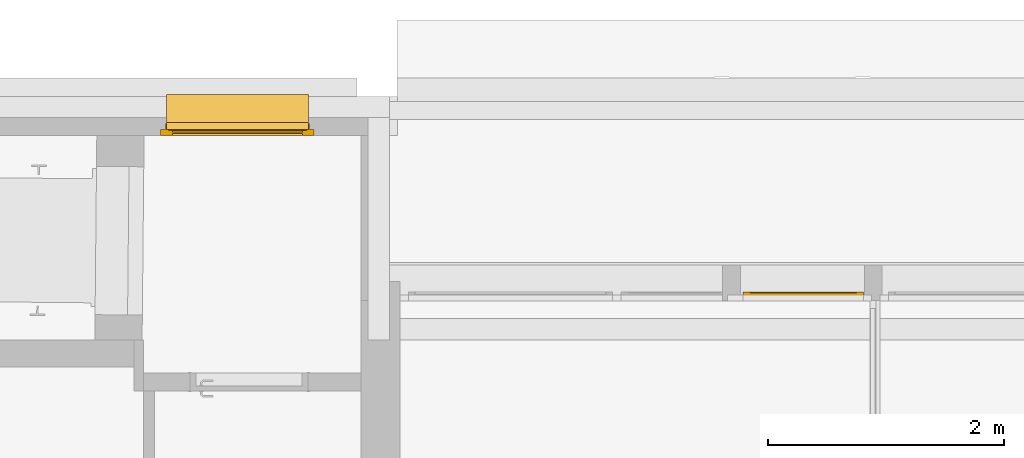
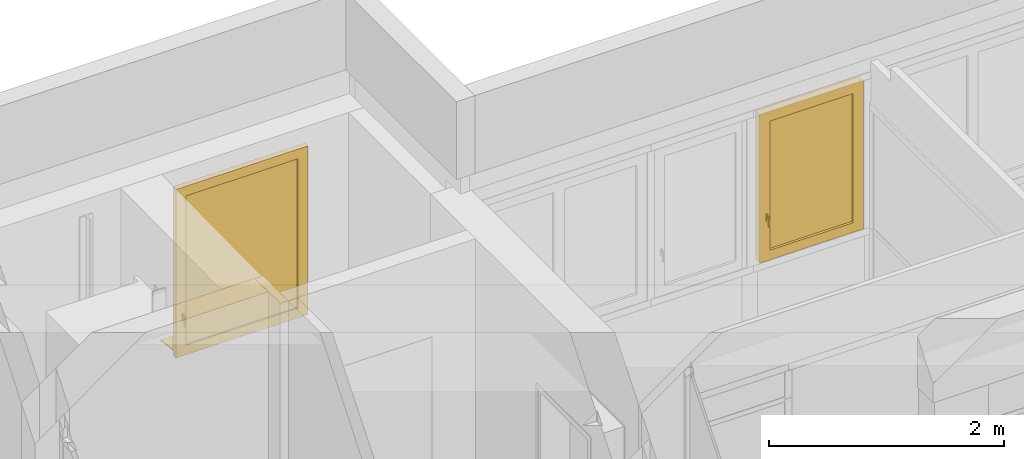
# One storey, part 43 of 49: 2 windows, 1 element without a shape of its own.
"""IFC4 building model written with IfcOpenShell, lengths in metres."""

from ifc_helpers import new_model, entity, si_unit, converted_unit, derived_unit, direction, frame, origin, place, context, subcontext, project, spatial, polygons, source, transform, mapped, material, material_list, constituent, constituent_set, type_object, type_shapes, element, aggregate, save


model = new_model("IFC4")

# Units and contexts
model_context = context("Model", 3, precision=1e-05, world=origin(), true_north=direction((6.12303176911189e-17, 1.0)))
body_context = subcontext(model_context, "Body", "Model", "MODEL_VIEW")
ifc_project = project(units=[si_unit("LENGTHUNIT", "METRE"), si_unit("AREAUNIT", "SQUARE_METRE"), si_unit("VOLUMEUNIT", "CUBIC_METRE"), converted_unit("PLANEANGLEUNIT", "DEGREE", entity("IfcRatioMeasure", 0.0174532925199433), si_unit("PLANEANGLEUNIT", "RADIAN"), dimensions=[0, 0, 0, 0, 0, 0, 0]), si_unit("MASSUNIT", "GRAM", prefix="KILO"), derived_unit("MASSDENSITYUNIT", [(si_unit("MASSUNIT", "GRAM", prefix="KILO"), 1), (si_unit("LENGTHUNIT", "METRE"), -3)]), derived_unit("MOMENTOFINERTIAUNIT", [(si_unit("LENGTHUNIT", "METRE"), 4)]), si_unit("TIMEUNIT", "SECOND"), si_unit("FREQUENCYUNIT", "HERTZ"), si_unit("THERMODYNAMICTEMPERATUREUNIT", "DEGREE_CELSIUS"), derived_unit("THERMALTRANSMITTANCEUNIT", [(si_unit("MASSUNIT", "GRAM", prefix="KILO"), 1), (si_unit("THERMODYNAMICTEMPERATUREUNIT", "KELVIN"), -1), (si_unit("TIMEUNIT", "SECOND"), -3)]), derived_unit("VOLUMETRICFLOWRATEUNIT", [(si_unit("LENGTHUNIT", "METRE"), 3), (si_unit("TIMEUNIT", "SECOND"), -1)]), si_unit("ELECTRICCURRENTUNIT", "AMPERE"), si_unit("ELECTRICVOLTAGEUNIT", "VOLT"), si_unit("POWERUNIT", "WATT"), si_unit("FORCEUNIT", "NEWTON", prefix="KILO"), si_unit("ILLUMINANCEUNIT", "LUX"), si_unit("LUMINOUSFLUXUNIT", "LUMEN"), si_unit("LUMINOUSINTENSITYUNIT", "CANDELA"), derived_unit("USERDEFINED", [(si_unit("MASSUNIT", "GRAM", prefix="KILO"), -1), (si_unit("LENGTHUNIT", "METRE"), -2), (si_unit("TIMEUNIT", "SECOND"), 3), (si_unit("LUMINOUSFLUXUNIT", "LUMEN"), 1)]), derived_unit("LINEARVELOCITYUNIT", [(si_unit("LENGTHUNIT", "METRE"), 1), (si_unit("TIMEUNIT", "SECOND"), -1)]), si_unit("PRESSUREUNIT", "PASCAL"), derived_unit("USERDEFINED", [(si_unit("LENGTHUNIT", "METRE"), -2), (si_unit("MASSUNIT", "GRAM", prefix="KILO"), 1), (si_unit("TIMEUNIT", "SECOND"), -2)]), derived_unit("LINEARFORCEUNIT", [(si_unit("MASSUNIT", "GRAM", prefix="KILO"), 1), (si_unit("LENGTHUNIT", "METRE"), 1), (si_unit("TIMEUNIT", "SECOND"), -2), (si_unit("LENGTHUNIT", "METRE"), -1)]), derived_unit("PLANARFORCEUNIT", [(si_unit("MASSUNIT", "GRAM", prefix="KILO"), 1), (si_unit("LENGTHUNIT", "METRE"), 1), (si_unit("TIMEUNIT", "SECOND"), -2), (si_unit("LENGTHUNIT", "METRE"), -2)])], contexts=[model_context])

# Site, building, storey
site_placement = place(None, origin())
site = spatial("IfcSite", under=ifc_project, at=site_placement, Name="Default", CompositionType="ELEMENT")
building_placement = place(site_placement, origin())
building = spatial("IfcBuilding", under=site, at=building_placement, Name="HOTEL CONSULAIRE BOULOGNE SUR MER", CompositionType="ELEMENT")
storey_placement = place(building_placement, frame((0.0, 0.0, 6.81974152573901)))
storey = spatial("IfcBuildingStorey", under=building, at=storey_placement, Name="Niveau 2", CompositionType="ELEMENT", Elevation=6.81974152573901)

# Window
ifc_material_1 = material(Name="PVC - Blanc", Category="Plastique")
ifc_constituent_1 = constituent(ifc_material_1, Name="PVC - Blanc", Category="Matériaux")
ifc_material_2 = material(Name="Fenêtre - Appui", Category="Métal")
ifc_constituent_2 = constituent(ifc_material_2, Name="Fenêtre - Appui", Category="Matériaux")
ifc_constituent_set_1 = constituent_set(constituents=[ifc_constituent_1, ifc_constituent_2], Name="MaterialConstituentSet")
ifc_material_list_1 = material_list([ifc_material_1, ifc_material_1, ifc_material_1, ifc_material_1, ifc_material_2])
window_type_1 = type_object("IfcWindowType", Name="1 Vantail - Droit:1.20x1.70", PartitioningType="NOTDEFINED", PredefinedType="WINDOW", material=ifc_material_list_1)
shared_shape_1 = source(origin(), body_context, "Body", "Tessellation", [
    polygons([(0.0806460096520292, -0.67100000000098, 0.498519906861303), (0.0820339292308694, -0.67100000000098, 0.497131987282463), (0.0820339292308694, -0.67100000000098, 0.485818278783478), (0.0806676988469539, -0.67100000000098, 0.484452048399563), (0.0693323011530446, -0.67100000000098, 0.484452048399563), (0.067966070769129, -0.67100000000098, 0.485818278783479), (0.067966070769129, -0.67100000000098, 0.497131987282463), (0.069353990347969, -0.67100000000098, 0.498519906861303), (0.0806460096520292, -0.683913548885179, 0.498519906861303), (0.0820339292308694, -0.68333865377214, 0.497131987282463), (0.0820339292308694, -0.69664600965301, 0.483824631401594), (0.0820339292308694, -0.69664600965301, 0.396485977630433), (0.0820339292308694, -0.685332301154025, 0.396485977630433), (0.0820339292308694, -0.685332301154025, 0.479138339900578), (0.0820339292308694, -0.678652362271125, 0.485818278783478), (0.0806676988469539, -0.678086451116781, 0.484452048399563), (0.0693323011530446, -0.678086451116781, 0.484452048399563), (0.067966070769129, -0.678652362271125, 0.485818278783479), (0.067966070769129, -0.685332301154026, 0.479138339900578), (0.067966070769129, -0.685332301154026, 0.396485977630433), (0.067966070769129, -0.69664600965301, 0.396485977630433), (0.067966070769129, -0.69664600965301, 0.483824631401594), (0.067966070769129, -0.68333865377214, 0.497131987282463), (0.069353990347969, -0.683913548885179, 0.498519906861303), (0.0806460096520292, -0.69803392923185, 0.484399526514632), (0.080667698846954, -0.68396607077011, 0.478572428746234), (0.0693323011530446, -0.68396607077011, 0.478572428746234), (0.069353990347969, -0.69803392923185, 0.484399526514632), (0.0806460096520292, -0.69803392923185, 0.396485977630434), (0.069353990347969, -0.69803392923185, 0.396485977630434), (0.0693323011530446, -0.68396607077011, 0.396485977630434), (0.0806676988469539, -0.68396607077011, 0.396485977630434)], [[[5, 6, 7, 8, 1, 2, 3, 4]], [[27, 26, 32, 31]], [[2, 1, 9, 10]], [[2, 10, 11, 12, 13, 14, 15, 3]], [[4, 3, 15, 16]], [[5, 4, 16, 17]], [[32, 13, 12, 29, 30, 21, 20, 31]], [[6, 5, 17, 18]], [[6, 18, 19, 20, 21, 22, 23, 7]], [[8, 7, 23, 24]], [[1, 8, 24, 9]], [[10, 9, 25, 11]], [[16, 15, 14, 26]], [[17, 16, 26, 27]], [[18, 17, 27, 19]], [[24, 23, 22, 28]], [[9, 24, 28, 25]], [[11, 25, 29, 12]], [[26, 14, 13, 32]], [[19, 27, 31, 20]], [[28, 22, 21, 30]], [[25, 28, 30, 29]]], closed=True),
    polygons([(0.0820000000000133, -0.671000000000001, 0.51648597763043), (0.0679999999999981, -0.671000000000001, 0.51648597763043), (0.0629999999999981, -0.671000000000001, 0.511485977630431), (0.0629999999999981, -0.671000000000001, 0.441485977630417), (0.0679999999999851, -0.671000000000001, 0.43648597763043), (0.0820000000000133, -0.671000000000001, 0.43648597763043), (0.0869999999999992, -0.671000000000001, 0.441485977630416), (0.0869999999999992, -0.671000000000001, 0.511485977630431), (0.0820000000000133, -0.665000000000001, 0.51648597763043), (0.0869999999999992, -0.665000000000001, 0.511485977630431), (0.0869999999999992, -0.665000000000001, 0.441485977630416), (0.0820000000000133, -0.665000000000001, 0.43648597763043), (0.0679999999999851, -0.665000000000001, 0.43648597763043), (0.0629999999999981, -0.665000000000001, 0.441485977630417), (0.0629999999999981, -0.665000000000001, 0.511485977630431), (0.0679999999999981, -0.665000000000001, 0.51648597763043)], [[[4, 5, 6, 7, 8, 1, 2, 3]], [[10, 11, 12, 13, 14, 15, 16, 9]], [[2, 1, 9, 16]], [[3, 2, 16, 15]], [[4, 3, 15, 14]], [[5, 4, 14, 13]], [[6, 5, 13, 12]], [[7, 6, 12, 11]], [[8, 7, 11, 10]], [[1, 8, 10, 9]]], closed=True),
    polygons([(1.25, -0.319999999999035, 0.0388885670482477), (1.25, -0.579999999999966, 0.0662156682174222), (1.25, -0.579999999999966, 0.0764859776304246), (1.25, -0.584999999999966, 0.0764859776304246), (1.25, -0.584999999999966, 0.061485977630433), (1.25, -0.324999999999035, 0.0341588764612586), (1.25, -0.324999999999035, 0.0238583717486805), (1.25, -0.319999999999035, 0.0233328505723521), (0.0499999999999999, -0.319999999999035, 0.0388885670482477), (0.0499999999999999, -0.319999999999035, 0.0233328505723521), (0.0499999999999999, -0.324999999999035, 0.0238583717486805), (0.0499999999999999, -0.324999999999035, 0.0341588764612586), (0.0499999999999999, -0.584999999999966, 0.061485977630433), (0.0499999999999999, -0.584999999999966, 0.0764859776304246), (0.0499999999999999, -0.579999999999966, 0.0764859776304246), (0.0499999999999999, -0.579999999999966, 0.0662156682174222)], [[[1, 2, 3, 4, 5, 6, 7, 8]], [[14, 15, 16, 9, 10, 11, 12, 13]], [[2, 1, 9, 16]], [[3, 2, 16, 15]], [[1, 8, 10, 9]], [[4, 3, 15, 14]], [[5, 4, 14, 13]], [[7, 6, 12, 11]], [[6, 5, 13, 12]], [[8, 7, 11, 10]]], closed=True),
    polygons([(0.0500000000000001, -0.319999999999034, 0.0388885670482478), (0.0499999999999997, -0.579999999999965, 0.0662156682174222), (0.0499999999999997, -0.579999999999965, 0.0712432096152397), (0.0500000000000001, -0.323581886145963, 0.0442925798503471), (0.0500000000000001, -0.321027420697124, 0.0429910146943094), (0.0500000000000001, -0.319999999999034, 0.040314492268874), (0.0550000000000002, -0.319999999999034, 0.0388885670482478), (0.0550000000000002, -0.319999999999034, 0.040314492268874), (0.0550000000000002, -0.321027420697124, 0.0429910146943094), (0.0550000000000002, -0.323581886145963, 0.0442925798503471), (0.0549999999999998, -0.579999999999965, 0.0712432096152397), (0.0549999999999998, -0.579999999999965, 0.0662156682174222)], [[[6, 1, 2, 3, 4, 5]], [[11, 12, 7, 8, 9, 10]], [[2, 1, 7, 12]], [[3, 2, 12, 11]], [[4, 3, 11, 10]], [[4, 10, 9, 5]], [[9, 8, 6, 5]], [[1, 6, 8, 7]]], closed=True),
    polygons([(1.245, -0.319999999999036, 0.0388885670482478), (1.245, -0.579999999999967, 0.0662156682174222), (1.245, -0.579999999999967, 0.0712432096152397), (1.245, -0.323581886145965, 0.0442925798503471), (1.245, -0.321027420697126, 0.0429910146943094), (1.245, -0.319999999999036, 0.040314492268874), (1.25, -0.319999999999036, 0.0388885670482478), (1.25, -0.319999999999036, 0.040314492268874), (1.25, -0.321027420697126, 0.0429910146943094), (1.25, -0.323581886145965, 0.0442925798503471), (1.25, -0.579999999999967, 0.0712432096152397), (1.25, -0.579999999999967, 0.0662156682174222)], [[[6, 1, 2, 3, 4, 5]], [[11, 12, 7, 8, 9, 10]], [[2, 1, 7, 12]], [[3, 2, 12, 11]], [[4, 3, 11, 10]], [[4, 10, 9, 5]], [[9, 8, 6, 5]], [[1, 6, 8, 7]]], closed=True),
    polygons([(0.099999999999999, -0.639000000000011, 0.176485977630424), (0.0999999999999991, -0.639000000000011, 1.72648597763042), (1.2, -0.639000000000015, 1.72648597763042), (1.2, -0.639000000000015, 0.176485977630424), (0.0999999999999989, -0.651000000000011, 0.176485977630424), (1.2, -0.651000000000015, 0.176485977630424), (1.2, -0.651000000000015, 1.72648597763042), (0.099999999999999, -0.651000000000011, 1.72648597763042)], [[[4, 1, 2, 3]], [[7, 8, 5, 6]], [[2, 1, 5, 8]], [[3, 2, 8, 7]], [[4, 3, 7, 6]], [[1, 4, 6, 5]]], closed=True),
    polygons([(0.099999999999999, -0.625000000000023, 0.176485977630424), (0.0999999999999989, -0.66500000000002, 0.176485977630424), (1.2, -0.665000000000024, 0.176485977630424), (1.2, -0.625000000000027, 0.176485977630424), (0.0499999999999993, -0.66500000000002, 0.126485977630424), (0.0499999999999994, -0.625000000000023, 0.126485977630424), (1.25, -0.625000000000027, 0.126485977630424), (1.25, -0.665000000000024, 0.126485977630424), (1.2, -0.665000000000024, 1.72648597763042), (1.2, -0.625000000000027, 1.72648597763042), (1.25, -0.625000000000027, 1.77648597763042), (1.25, -0.665000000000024, 1.77648597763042), (0.0999999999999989, -0.66500000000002, 1.72648597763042), (0.0999999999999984, -0.625000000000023, 1.72648597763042), (0.0499999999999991, -0.625000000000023, 1.77648597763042), (0.0499999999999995, -0.66500000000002, 1.77648597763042)], [[[1, 2, 3, 4]], [[12, 11, 15, 16]], [[5, 6, 7, 8]], [[10, 9, 13, 14]], [[4, 3, 9, 10]], [[16, 15, 6, 5]], [[8, 7, 11, 12]], [[14, 13, 2, 1]], [[11, 7, 6, 15], [14, 1, 4, 10]], [[16, 5, 8, 12], [9, 3, 2, 13]]], closed=True),
    polygons([(0.0, -0.665000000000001, 0.0764859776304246), (0.0, -0.615000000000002, 0.0764859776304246), (0.0499999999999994, -0.615000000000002, 0.0764859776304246), (0.0499999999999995, -0.565000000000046, 0.0764859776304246), (1.25, -0.565000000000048, 0.0764859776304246), (1.25, -0.615000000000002, 0.0764859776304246), (1.3, -0.615000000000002, 0.0764859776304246), (1.3, -0.665000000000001, 0.0764859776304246), (1.35358391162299e-16, -0.615000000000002, 1.82648597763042), (1.3, -0.615000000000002, 1.82648597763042), (1.25, -0.615000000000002, 0.115862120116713), (0.0499999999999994, -0.615000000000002, 0.115862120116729), (0.0649999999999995, -0.615000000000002, 1.76148597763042), (0.0649999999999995, -0.615000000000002, 0.141485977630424), (1.235, -0.615000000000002, 0.141485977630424), (1.235, -0.615000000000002, 1.76148597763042), (0.0649999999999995, -0.625000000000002, 1.76148597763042), (0.0649999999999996, -0.625000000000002, 0.141485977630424), (1.25, -0.625000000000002, 1.77648597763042), (0.0499999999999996, -0.625000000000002, 1.77648597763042), (0.0499999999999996, -0.625000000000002, 0.126485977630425), (1.25, -0.625000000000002, 0.126485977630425), (1.235, -0.625000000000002, 1.76148597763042), (1.235, -0.625000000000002, 0.141485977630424), (0.0499999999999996, -0.665000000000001, 1.77648597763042), (0.0499999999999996, -0.665000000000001, 0.126485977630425), (1.3, -0.665000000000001, 1.82648597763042), (1.35358391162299e-16, -0.665000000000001, 1.82648597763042), (1.25, -0.665000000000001, 1.77648597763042), (1.25, -0.665000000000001, 0.126485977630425), (0.0499999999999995, -0.555000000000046, 0.0997851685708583), (0.0499999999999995, -0.555000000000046, 0.0714859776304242), (0.0499999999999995, -0.565000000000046, 0.0714859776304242), (1.25, -0.565000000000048, 0.0714859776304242), (1.25, -0.555000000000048, 0.0714859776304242), (1.25, -0.555000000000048, 0.0997851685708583)], [[[5, 6, 7, 8, 1, 2, 3, 4]], [[17, 13, 16, 23]], [[25, 20, 19, 29]], [[33, 32, 35, 34]], [[2, 9, 10, 7, 6, 11, 12, 3], [14, 15, 16, 13]], [[32, 31, 36, 35]], [[18, 14, 13, 17]], [[26, 21, 20, 25]], [[10, 27, 8, 7]], [[11, 6, 5, 34, 35, 36]], [[22, 19, 20, 21], [18, 17, 23, 24]], [[8, 27, 28, 1], [26, 25, 29, 30]], [[4, 33, 34, 5]], [[2, 1, 28, 9]], [[23, 16, 15, 24]], [[29, 19, 22, 30]], [[31, 32, 33, 4, 3, 12]], [[9, 28, 27, 10]], [[21, 26, 30, 22]], [[14, 18, 24, 15]], [[31, 12, 11, 36]]], closed=True),
    polygons([(0.0499999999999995, -0.565, 0.0764859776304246), (0.0499999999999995, -0.615000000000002, 0.0764859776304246), (0.039999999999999, -0.615000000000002, 0.0764859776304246), (0.039999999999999, -0.565, 0.0764859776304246), (0.0499999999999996, -0.565, 1.77648597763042), (0.0499999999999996, -0.615000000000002, 1.77648597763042), (1.25, -0.615000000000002, 1.77648597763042), (1.25, -0.615000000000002, 0.0764859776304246), (1.26, -0.615000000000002, 0.0764859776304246), (1.26, -0.615000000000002, 1.78648597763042), (0.0399999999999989, -0.615000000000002, 1.78648597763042), (0.0399999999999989, -0.565, 1.78648597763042), (1.26, -0.565, 1.78648597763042), (1.26, -0.565, 0.0764859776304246), (1.25, -0.565, 0.0764859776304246), (1.25, -0.565, 1.77648597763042)], [[[2, 3, 4, 1]], [[6, 5, 16, 7]], [[15, 14, 9, 8]], [[2, 1, 5, 6]], [[13, 10, 9, 14]], [[8, 9, 10, 11, 3, 2, 6, 7]], [[4, 3, 11, 12]], [[7, 16, 15, 8]], [[1, 4, 12, 13, 14, 15, 16, 5]], [[12, 11, 10, 13]]], closed=True),
])
type_shapes(window_type_1, [shared_shape_1])
window_1_placement = place(storey_placement, frame((9.64419750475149, -9.57532416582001, 0.923514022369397)))
element("IfcWindow", 1, at=window_1_placement, inside=storey, type_object=window_type_1, material=ifc_constituent_set_1, Name="1 Vantail - Droit:1.20x1.70", ObjectType="1 Vantail - Droit:1.20x1.70", OverallHeight=1.83, OverallWidth=1.3, PartitioningType="NOTDEFINED", PredefinedType="WINDOW", context=body_context, shape_type="MappedRepresentation", body=[
    mapped(shared_shape_1, transform((0.0, 0.0, 0.0), scale=1.0)),
])

# Curtain wall, window
curtain_wall_type = type_object("IfcCurtainWallType", Name="Mur-rideau:Simple panneau", PredefinedType="NOTDEFINED")
curtain_wall_placement = place(storey_placement, frame((0.0, 0.0, -6.81974152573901)))
curtain_wall = element("IfcCurtainWall", 2, at=curtain_wall_placement, inside=storey, type_object=curtain_wall_type, Name="Mur-rideau:Simple panneau", ObjectType="Mur-rideau:Simple panneau", PredefinedType="NOTDEFINED")
ifc_constituent_3 = constituent(ifc_material_1, Name="PVC - Blanc", Category="Matériaux")
ifc_material_3 = material(Name="Fenêtre - Vitrage", Category="Verre")
ifc_constituent_4 = constituent(ifc_material_3, Name="Fenêtre - Vitrage", Category="Matériaux")
ifc_constituent_set_2 = constituent_set(constituents=[ifc_constituent_3, ifc_constituent_4], Name="MaterialConstituentSet")
ifc_material_list_2 = material_list([ifc_material_1, ifc_material_1])
window_type_2 = type_object("IfcWindowType", Name="MR 1 Vantail:MR 1 Vantail", PartitioningType="NOTDEFINED", PredefinedType="WINDOW", material=ifc_material_list_2)
shared_shape_2 = source(origin(), body_context, "Body", "Tessellation", [
    polygons([(-0.44020465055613, -0.0492408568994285, 0.472033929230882), (-0.42891263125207, -0.0492408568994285, 0.472033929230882), (-0.42752471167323, -0.0492408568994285, 0.470646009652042), (-0.42752471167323, -0.0492408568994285, 0.459332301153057), (-0.428890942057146, -0.0492408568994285, 0.457966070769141), (-0.440226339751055, -0.0492408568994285, 0.457966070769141), (-0.44159257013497, -0.0492408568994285, 0.459332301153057), (-0.44159257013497, -0.0492408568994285, 0.470646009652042), (-0.44159257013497, -0.0615795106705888, 0.470646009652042), (-0.44020465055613, -0.0621544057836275, 0.472033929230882), (-0.44159257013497, -0.0568932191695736, 0.459332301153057), (-0.44159257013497, -0.0635731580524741, 0.452652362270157), (-0.44159257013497, -0.0635731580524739, 0.370000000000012), (-0.44159257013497, -0.0748868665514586, 0.370000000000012), (-0.44159257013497, -0.0748868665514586, 0.457338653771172), (-0.440226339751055, -0.0563273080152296, 0.457966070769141), (-0.428890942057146, -0.0563273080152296, 0.457966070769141), (-0.42752471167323, -0.0568932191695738, 0.459332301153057), (-0.42752471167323, -0.0615795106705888, 0.470646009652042), (-0.42752471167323, -0.0748868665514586, 0.457338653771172), (-0.42752471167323, -0.0748868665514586, 0.370000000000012), (-0.42752471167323, -0.0635731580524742, 0.370000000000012), (-0.42752471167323, -0.0635731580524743, 0.452652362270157), (-0.42891263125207, -0.0621544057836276, 0.472033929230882), (-0.44020465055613, -0.076274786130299, 0.457913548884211), (-0.440226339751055, -0.0622069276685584, 0.452086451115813), (-0.428890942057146, -0.0622069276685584, 0.452086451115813), (-0.42891263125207, -0.0762747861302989, 0.457913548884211), (-0.44020465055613, -0.0762747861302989, 0.370000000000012), (-0.440226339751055, -0.0622069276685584, 0.370000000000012), (-0.428890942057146, -0.0622069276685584, 0.370000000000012), (-0.42891263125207, -0.0762747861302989, 0.370000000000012)], [[[6, 7, 8, 1, 2, 3, 4, 5]], [[30, 26, 27, 31]], [[9, 10, 1, 8]], [[11, 12, 13, 14, 15, 9, 8, 7]], [[16, 11, 7, 6]], [[16, 6, 5, 17]], [[31, 22, 21, 32, 29, 14, 13, 30]], [[17, 5, 4, 18]], [[3, 19, 20, 21, 22, 23, 18, 4]], [[19, 3, 2, 24]], [[24, 2, 1, 10]], [[15, 25, 10, 9]], [[26, 12, 11, 16]], [[27, 26, 16, 17]], [[27, 17, 18, 23]], [[20, 19, 24, 28]], [[28, 24, 10, 25]], [[29, 25, 15, 14]], [[13, 12, 26, 30]], [[22, 31, 27, 23]], [[32, 21, 20, 28]], [[32, 28, 25, 29]]], closed=True),
    polygons([(-0.441558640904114, -0.0432408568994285, 0.490000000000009), (-0.427558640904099, -0.0432408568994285, 0.490000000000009), (-0.422558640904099, -0.0432408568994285, 0.48500000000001), (-0.422558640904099, -0.0432408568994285, 0.414999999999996), (-0.427558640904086, -0.0432408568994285, 0.410000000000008), (-0.441558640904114, -0.0432408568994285, 0.410000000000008), (-0.4465586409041, -0.0432408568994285, 0.414999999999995), (-0.4465586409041, -0.0432408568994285, 0.48500000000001), (-0.441558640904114, -0.0492408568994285, 0.490000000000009), (-0.4465586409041, -0.0492408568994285, 0.48500000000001), (-0.4465586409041, -0.0492408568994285, 0.414999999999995), (-0.441558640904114, -0.0492408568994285, 0.410000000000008), (-0.427558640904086, -0.0492408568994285, 0.410000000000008), (-0.422558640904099, -0.0492408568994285, 0.414999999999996), (-0.422558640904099, -0.0492408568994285, 0.48500000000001), (-0.427558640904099, -0.0492408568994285, 0.490000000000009)], [[[2, 3, 4, 5, 6, 7, 8, 1]], [[13, 14, 15, 16, 9, 10, 11, 12]], [[9, 1, 8, 10]], [[10, 8, 7, 11]], [[11, 7, 6, 12]], [[12, 6, 5, 13]], [[13, 5, 4, 14]], [[15, 14, 4, 3]], [[15, 3, 2, 16]], [[16, 2, 1, 9]]], closed=True),
    polygons([(0.409558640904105, -0.0192408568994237, 1.44128724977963), (-0.409558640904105, -0.0192408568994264, 1.44128724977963), (-0.409558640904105, -0.0192408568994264, 0.1), (0.409558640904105, -0.0192408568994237, 0.1), (0.409558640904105, -0.00724085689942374, 1.44128724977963), (0.409558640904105, -0.00724085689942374, 0.1), (-0.409558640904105, -0.00724085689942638, 0.1), (-0.409558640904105, -0.00724085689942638, 1.44128724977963)], [[[4, 1, 2, 3]], [[7, 8, 5, 6]], [[2, 1, 5, 8]], [[3, 2, 8, 7]], [[4, 3, 7, 6]], [[1, 4, 6, 5]]], closed=True),
    polygons([(-0.459558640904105, 0.0167591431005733, 1.49128724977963), (-0.459558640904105, -0.043240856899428, 1.49128724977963), (0.459558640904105, -0.043240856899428, 1.49128724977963), (0.459558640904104, 0.0167591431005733, 1.49128724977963), (-0.409558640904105, -0.043240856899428, 1.44128724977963), (-0.409558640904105, 0.0167591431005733, 1.44128724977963), (0.409558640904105, 0.0167591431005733, 1.44128724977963), (0.409558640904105, -0.043240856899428, 1.44128724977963), (0.459558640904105, -0.043240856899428, 0.0500000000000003), (0.459558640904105, 0.0167591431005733, 0.0500000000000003), (0.409558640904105, 0.0167591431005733, 0.1), (0.409558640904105, -0.043240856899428, 0.1), (-0.459558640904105, -0.043240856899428, 0.0500000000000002), (-0.459558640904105, 0.0167591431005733, 0.0500000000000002), (-0.409558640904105, 0.0167591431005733, 0.1), (-0.409558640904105, -0.043240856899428, 0.1)], [[[1, 2, 3, 4]], [[12, 11, 15, 16]], [[5, 6, 7, 8]], [[10, 9, 13, 14]], [[4, 3, 9, 10]], [[16, 15, 6, 5]], [[8, 7, 11, 12]], [[14, 13, 2, 1]], [[9, 3, 2, 13], [16, 5, 8, 12]], [[14, 1, 4, 10], [11, 7, 6, 15]]], closed=True),
    polygons([(-0.449558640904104, 0.016759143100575, 1.48128724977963), (-0.449558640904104, 0.0267591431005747, 1.48128724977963), (0.449558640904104, 0.0267591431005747, 1.48128724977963), (0.449558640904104, 0.016759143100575, 1.48128724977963), (-0.459558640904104, -0.0432408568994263, 1.49128724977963), (-0.459558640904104, 0.016759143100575, 1.49128724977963), (0.459558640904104, 0.016759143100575, 1.49128724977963), (0.459558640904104, -0.0432408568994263, 1.49128724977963), (-0.509558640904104, 0.0267591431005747, 1.54128724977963), (-0.509558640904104, -0.0432408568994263, 1.54128724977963), (0.509558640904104, -0.0432408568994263, 1.54128724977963), (0.509558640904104, 0.0267591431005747, 1.54128724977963), (0.449558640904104, 0.0267591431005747, 0.0600000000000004), (0.449558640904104, 0.016759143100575, 0.0600000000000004), (0.459558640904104, 0.016759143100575, 0.0500000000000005), (0.459558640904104, -0.0432408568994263, 0.0500000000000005), (0.509558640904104, -0.0432408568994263, 5.41433564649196e-16), (0.509558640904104, 0.0267591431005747, 5.41433564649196e-16), (-0.449558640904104, 0.0267591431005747, 0.0600000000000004), (-0.449558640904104, 0.016759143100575, 0.0600000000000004), (-0.459558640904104, 0.016759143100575, 0.0500000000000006), (-0.459558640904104, -0.0432408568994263, 0.0500000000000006), (-0.509558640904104, -0.0432408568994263, 6.09112760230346e-16), (-0.509558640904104, 0.0267591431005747, 6.09112760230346e-16)], [[[1, 2, 3, 4]], [[5, 6, 7, 8]], [[18, 17, 23, 24]], [[9, 10, 11, 12]], [[14, 13, 19, 20]], [[16, 15, 21, 22]], [[4, 3, 13, 14]], [[8, 7, 15, 16]], [[24, 23, 10, 9]], [[12, 11, 17, 18]], [[20, 19, 2, 1]], [[22, 21, 6, 5]], [[24, 9, 12, 18], [13, 3, 2, 19]], [[15, 7, 6, 21], [20, 1, 4, 14]], [[17, 11, 10, 23], [22, 5, 8, 16]]], closed=True),
])
type_shapes(window_type_2, [shared_shape_2])
window_2_placement = place(curtain_wall_placement, frame((15.0815172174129, -11.5914237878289, 7.92545427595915)))
window_2 = element("IfcWindow", 3, at=window_2_placement, type_object=window_type_2, material=ifc_constituent_set_2, Name="MR 1 Vantail:MR 1 Vantail", ObjectType="MR 1 Vantail:MR 1 Vantail", OverallHeight=1.54128724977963, OverallWidth=1.01911728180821, PartitioningType="NOTDEFINED", PredefinedType="WINDOW", context=body_context, shape_type="MappedRepresentation", body=[
    mapped(shared_shape_2, transform((0.0, 0.0, 0.0), scale=1.0)),
])
aggregate(curtain_wall, [window_2])

save(model, "model.ifc")
